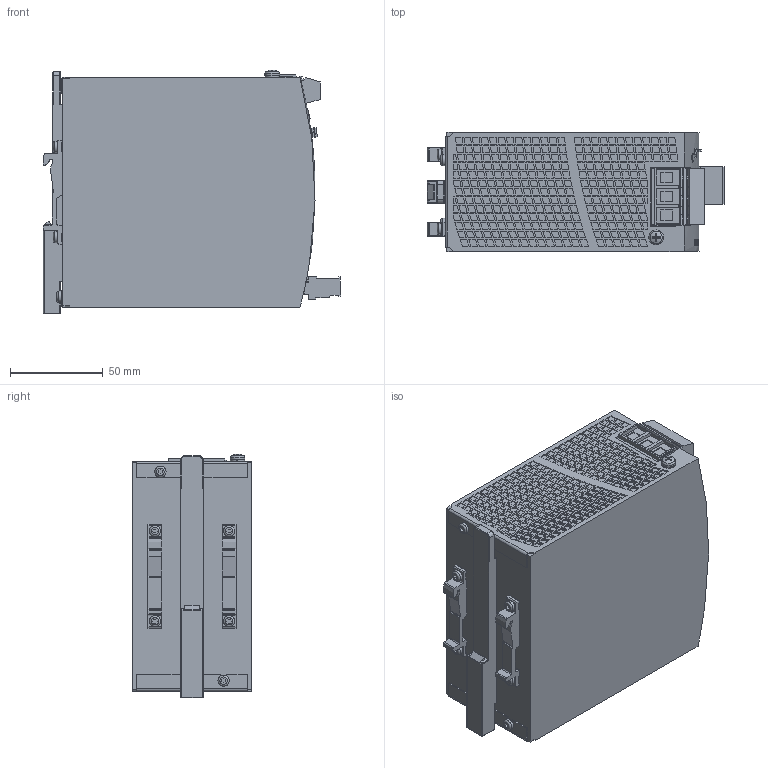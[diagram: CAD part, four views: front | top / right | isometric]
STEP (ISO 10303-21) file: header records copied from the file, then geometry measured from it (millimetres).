
FILE_DESCRIPTION(/* description */ ('PS_64x124x142'),/* implementation_level */ '2;1');
FILE_NAME(/* name */ 'E:\ps_64x124x142.stp',/* time_stamp */ '2021-07-22T15:31:01+02:00',/* author */ (''),/* organization */ (''),/* preprocessor_version */ 'ST-DEVELOPER v18',/* originating_system */ 'Autodesk Inventor 2020',/* authorisation */ '');
FILE_SCHEMA (('AUTOMOTIVE_DESIGN { 1 0 10303 214 3 1 1 }'));
Products named in the file (1): 0000010344_PS9011-2440-0000-mit-Aufkleber
Bounding box: 160.35 x 64 x 131.47 mm (x, y, z)
Volume: 1073218.2 mm3; surface area: 86477.3 mm2
Topology: 1 solids, 2 shells, 4221 faces, 10523 edges, 7003 vertices
Faces by surface type: plane 3362, cylinder 752, bspline 71, torus 16, cone 11, sphere 9
Full cylindrical faces by diameter (mm): 1.3 x4, 3 x10, 3.1 x4, 3.621 x1, 3.75 x4, 3.95 x4, 4 x1, 4.5 x1, 4.6 x1, 6 x6, 7 x3
Entity records: 129627 total; most frequent: CARTESIAN_POINT 26323, ORIENTED_EDGE 21044, DIRECTION 20471, EDGE_CURVE 10522, LINE 8515, VECTOR 8515, VERTEX_POINT 7003, AXIS2_PLACEMENT_3D 5978
